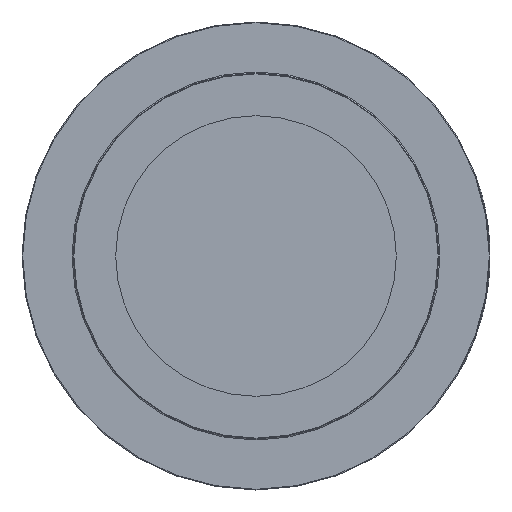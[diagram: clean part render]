
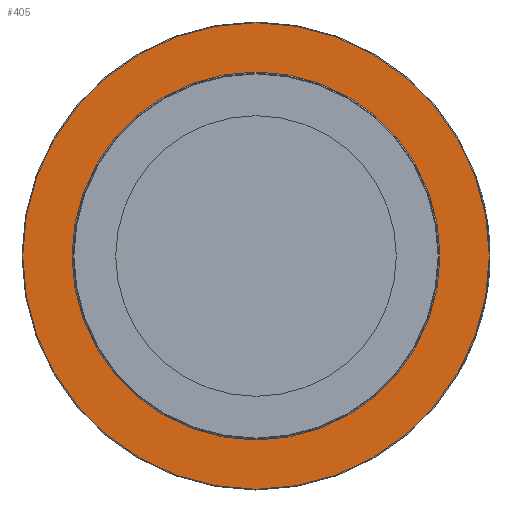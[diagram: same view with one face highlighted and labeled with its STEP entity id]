
A CAD part, left-side view. The second image highlights one B-rep face of the part: STEP entity #405.
In plain terms, the highlighted planar face has unit normal (-1, 0, 0).
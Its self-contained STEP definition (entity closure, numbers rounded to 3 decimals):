
#405 = ADVANCED_FACE( '', ( #943, #944 ), #945, .T. );
#943 = FACE_OUTER_BOUND( '', #2070, .T. );
#944 = FACE_BOUND( '', #2071, .T. );
#945 = PLANE( '', #2072 );
#2070 = EDGE_LOOP( '', ( #4769 ) );
#2071 = EDGE_LOOP( '', ( #4770 ) );
#2072 = AXIS2_PLACEMENT_3D( '', #4771, #4772, #4773 );
#4769 = ORIENTED_EDGE( '', *, *, #5966, .T. );
#4770 = ORIENTED_EDGE( '', *, *, #6212, .F. );
#4771 = CARTESIAN_POINT( '', ( 103.457, 0., 161.417 ) );
#4772 = DIRECTION( '', ( -1., 0., 0. ) );
#4773 = DIRECTION( '', ( 0., 0., 1. ) );
#5966 = EDGE_CURVE( '', #6754, #6754, #6755, .T. );
#6212 = EDGE_CURVE( '', #7167, #7167, #7168, .T. );
#6754 = VERTEX_POINT( '', #8023 );
#6755 = CIRCLE( '', #8024, 161.417 );
#7167 = VERTEX_POINT( '', #8990 );
#7168 = CIRCLE( '', #8991, 127.324 );
#8023 = CARTESIAN_POINT( '', ( 103.457, 0., 161.417 ) );
#8024 = AXIS2_PLACEMENT_3D( '', #10922, #10923, #10924 );
#8990 = CARTESIAN_POINT( '', ( 103.457, 0., 127.324 ) );
#8991 = AXIS2_PLACEMENT_3D( '', #10946, #10947, #10948 );
#10922 = CARTESIAN_POINT( '', ( 103.457, 0., 0. ) );
#10923 = DIRECTION( '', ( -1., 0., 0. ) );
#10924 = DIRECTION( '', ( 0., 0., 1. ) );
#10946 = CARTESIAN_POINT( '', ( 103.457, 0., 0. ) );
#10947 = DIRECTION( '', ( -1., 0., 0. ) );
#10948 = DIRECTION( '', ( 0., 0., 1. ) );
